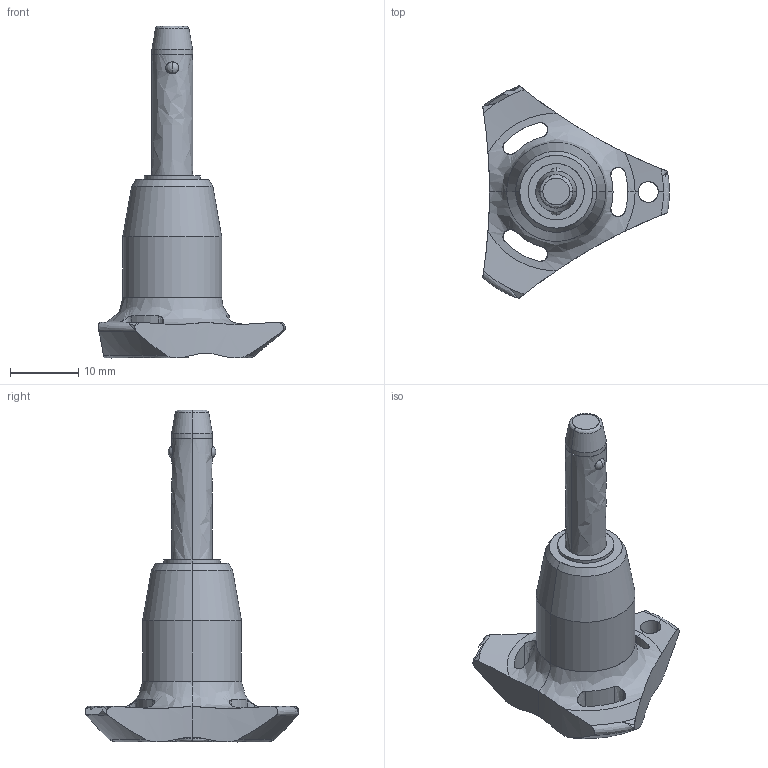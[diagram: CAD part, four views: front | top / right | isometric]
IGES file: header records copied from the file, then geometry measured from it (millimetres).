
Start section: SolidWorks IGES file using analytic representation for surfaces
Global section: file name: C:\Users\ianosborn\Desktop\33060_v2\33060.BK_v2_20240910_IGES\33060.W0823.igs; native system: SolidWorks 2019; preprocessor: SolidWorks 2019; author: IanOsborn; date: 240910.200643; units: millimetre
Bounding box: 27.4 x 31.31 x 48.7 mm (x, y, z)
Surface area: 2835.7 mm2 (no closed solid volume)
Topology: 0 solids, 0 shells, 69 faces, 1323 edges, 1304 vertices
Faces by surface type: revolution 52, bspline 17
